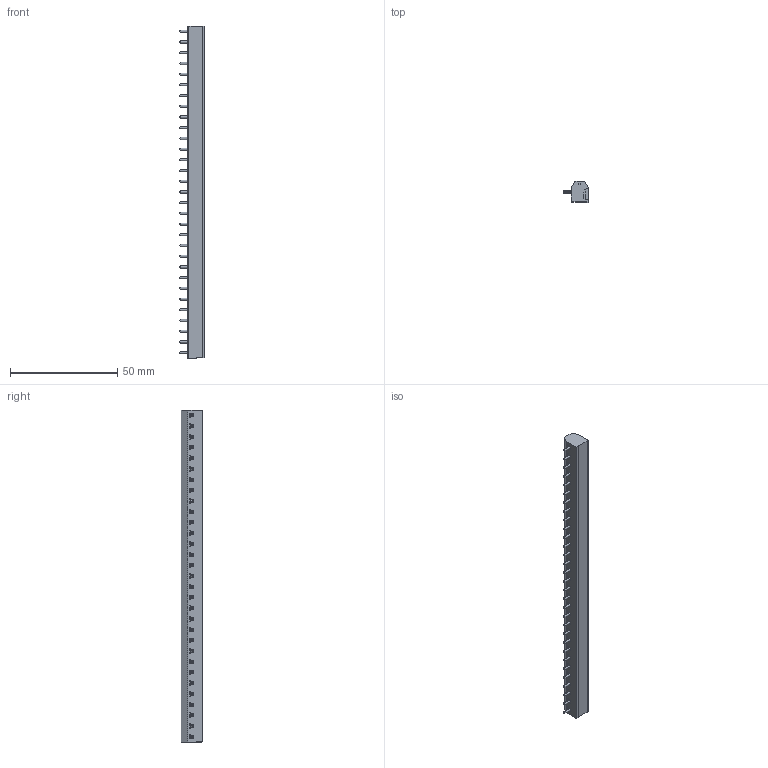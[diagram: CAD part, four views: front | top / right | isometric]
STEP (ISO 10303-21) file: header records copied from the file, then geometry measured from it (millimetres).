
FILE_DESCRIPTION (( 'STEP AP214' ), '1' );
FILE_NAME ('951-HG-DS-31.STEP', '2008-02-29T03:28:37', ( ' ' ), ( '' ), 'SwSTEP 2.0', 'SolidWorks 2007', '' );
FILE_SCHEMA (( 'AUTOMOTIVE_DESIGN' ));
Length unit declared in the file: millimetre
Products named in the file (1): 951-HG-DS-31
Bounding box: 11.5 x 10 x 155 mm (x, y, z)
Volume: 9926 mm3; surface area: 8945.4 mm2
Topology: 1 solids, 1 shells, 2232 faces, 7063 edges, 4678 vertices
Faces by surface type: plane 1779, cylinder 310, cone 81, bspline 62
Entity records: 80993 total; most frequent: CARTESIAN_POINT 19130, ORIENTED_EDGE 14126, DIRECTION 11638, EDGE_CURVE 7063, VECTOR 4792, LINE 4792, VERTEX_POINT 4678, AXIS2_PLACEMENT_3D 3423
